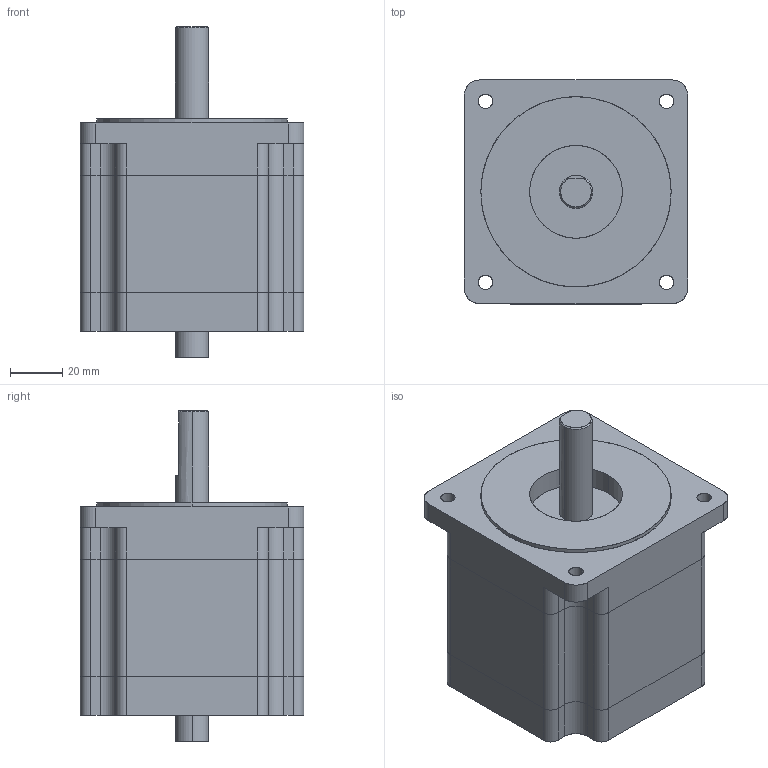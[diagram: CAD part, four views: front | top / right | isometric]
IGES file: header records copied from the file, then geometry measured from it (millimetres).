
Start section: SolidWorks IGES file using analytic representation for surfaces
Global section: file name: C:\Users\Christine\Documents\Arcus\Project #21\STM-34-2-1\STM-34-2-1.IGS; native system: SolidWorks 2008; preprocessor: SolidWorks 2008; author: Christine; date: 131028.135545; units: millimetre
Bounding box: 85.85 x 85.85 x 127 mm (x, y, z)
Surface area: 71444.3 mm2 (no closed solid volume)
Topology: 0 solids, 0 shells, 141 faces, 2208 edges, 2196 vertices
Faces by surface type: revolution 87, bspline 54
